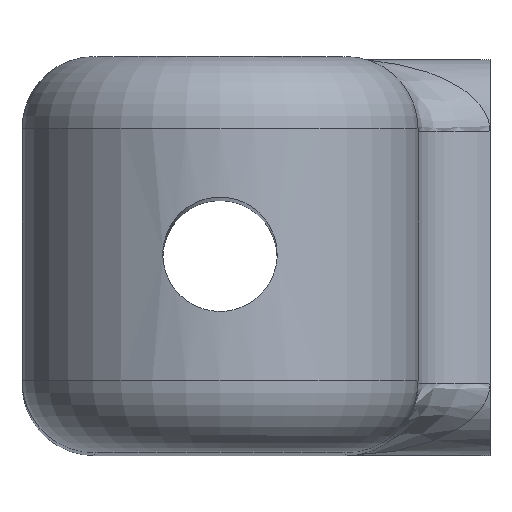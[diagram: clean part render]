
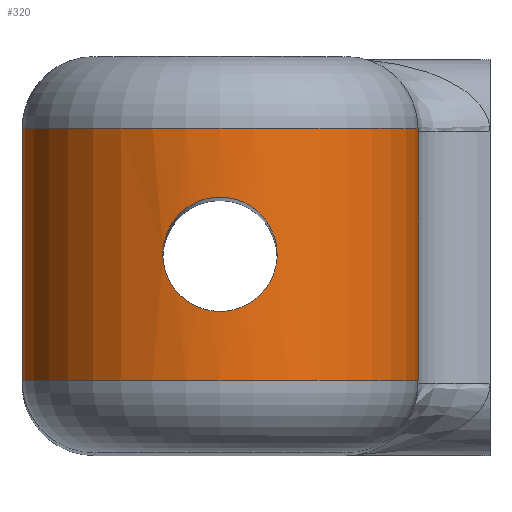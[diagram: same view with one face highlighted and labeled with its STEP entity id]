
A CAD part, top view. The second image highlights one B-rep face of the part: STEP entity #320.
In plain terms, the highlighted cylindrical face has radius 11 mm (diameter 22 mm), a partial arc.
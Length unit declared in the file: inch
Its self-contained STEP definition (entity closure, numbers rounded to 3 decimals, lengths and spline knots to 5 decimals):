
#31=FACE_BOUND('',#58,.T.);
#33=B_SPLINE_CURVE_WITH_KNOTS('',3,(#525,#526,#527,#528,#529,#530,#531,
#532,#533,#534,#535,#536,#537,#538),.UNSPECIFIED.,.F.,.F.,(4,2,2,2,2,2,
4),(1.92544,2.0458,2.16615,2.28648,2.4068,
2.52713,2.54432),.UNSPECIFIED.);
#34=B_SPLINE_CURVE_WITH_KNOTS('',3,(#539,#540,#541,#542,#543,#544,#545,
#546,#547,#548,#549,#550,#551,#552,#553,#554,#555,#556,#557,#558,#559,#560,
#561,#562),.UNSPECIFIED.,.F.,.F.,(4,2,2,2,2,2,2,2,2,2,2,4),(0.61888,
0.72201,0.84237,0.96272,1.08308,
1.20343,1.32376,1.44408,1.56441,1.68473,
1.80509,1.92544),.UNSPECIFIED.);
#35=FACE_OUTER_BOUND('',#57,.T.);
#57=EDGE_LOOP('',(#216,#217,#218,#219));
#58=EDGE_LOOP('',(#220,#221));
#81=LINE('',#519,#101);
#82=LINE('',#522,#102);
#101=VECTOR('',#407,0.55118);
#102=VECTOR('',#410,0.55118);
#121=CIRCLE('',#357,0.43307);
#122=CIRCLE('',#358,0.43307);
#142=VERTEX_POINT('',#515);
#143=VERTEX_POINT('',#516);
#144=VERTEX_POINT('',#518);
#145=VERTEX_POINT('',#520);
#146=VERTEX_POINT('',#523);
#147=VERTEX_POINT('',#524);
#169=EDGE_CURVE('',#142,#143,#121,.T.);
#170=EDGE_CURVE('',#142,#144,#81,.T.);
#171=EDGE_CURVE('',#145,#144,#122,.T.);
#172=EDGE_CURVE('',#143,#145,#82,.T.);
#173=EDGE_CURVE('',#146,#147,#33,.F.);
#174=EDGE_CURVE('',#147,#146,#34,.F.);
#216=ORIENTED_EDGE('',*,*,#169,.F.);
#217=ORIENTED_EDGE('',*,*,#170,.T.);
#218=ORIENTED_EDGE('',*,*,#171,.F.);
#219=ORIENTED_EDGE('',*,*,#172,.F.);
#220=ORIENTED_EDGE('',*,*,#173,.T.);
#221=ORIENTED_EDGE('',*,*,#174,.T.);
#310=CYLINDRICAL_SURFACE('',#356,0.43307);
#320=ADVANCED_FACE('',(#35,#31),#310,.T.);
#356=AXIS2_PLACEMENT_3D('',#514,#403,#404);
#357=AXIS2_PLACEMENT_3D('',#517,#405,#406);
#358=AXIS2_PLACEMENT_3D('',#521,#408,#409);
#403=DIRECTION('center_axis',(0.,1.,0.));
#404=DIRECTION('ref_axis',(-1.,0.,0.));
#405=DIRECTION('center_axis',(0.,-1.,0.));
#406=DIRECTION('ref_axis',(0.,0.,1.));
#407=DIRECTION('',(0.,1.,0.));
#408=DIRECTION('center_axis',(0.,1.,0.));
#409=DIRECTION('ref_axis',(0.,0.,1.));
#410=DIRECTION('',(0.,1.,0.));
#514=CARTESIAN_POINT('Origin',(0.,0.,3.89764));
#515=CARTESIAN_POINT('',(0.43307,-0.27559,3.89764));
#516=CARTESIAN_POINT('',(-0.43307,-0.27559,3.89764));
#517=CARTESIAN_POINT('Origin',(0.,-0.27559,
3.89764));
#518=CARTESIAN_POINT('',(0.43307,0.27559,3.89764));
#519=CARTESIAN_POINT('',(0.43307,-0.27559,3.89764));
#520=CARTESIAN_POINT('',(-0.43307,0.27559,3.89764));
#521=CARTESIAN_POINT('Origin',(0.,0.27559,
3.89764));
#522=CARTESIAN_POINT('',(-0.43307,-0.27559,3.89764));
#523=CARTESIAN_POINT('',(-0.05447,0.11251,4.32727));
#524=CARTESIAN_POINT('',(0.125,0.,4.31228));
#525=CARTESIAN_POINT('Ctrl Pts',(0.125,0.,4.31228));
#526=CARTESIAN_POINT('Ctrl Pts',(0.125,0.01579,4.31228));
#527=CARTESIAN_POINT('Ctrl Pts',(0.12182,0.03258,4.31327));
#528=CARTESIAN_POINT('Ctrl Pts',(0.10904,0.06334,4.31681));
#529=CARTESIAN_POINT('Ctrl Pts',(0.09944,0.07734,
4.31929));
#530=CARTESIAN_POINT('Ctrl Pts',(0.07734,0.09943,
4.3239));
#531=CARTESIAN_POINT('Ctrl Pts',(0.06335,0.10904,4.32633));
#532=CARTESIAN_POINT('Ctrl Pts',(0.03257,0.12183,4.32976));
#533=CARTESIAN_POINT('Ctrl Pts',(0.01579,0.125,4.33071));
#534=CARTESIAN_POINT('Ctrl Pts',(-0.01579,0.125,4.33071));
#535=CARTESIAN_POINT('Ctrl Pts',(-0.03257,0.12183,
4.32976));
#536=CARTESIAN_POINT('Ctrl Pts',(-0.05016,0.11452,
4.3278));
#537=CARTESIAN_POINT('Ctrl Pts',(-0.05233,0.11354,4.32754));
#538=CARTESIAN_POINT('Ctrl Pts',(-0.05447,0.11251,4.32727));
#539=CARTESIAN_POINT('Ctrl Pts',(-0.05447,0.11251,4.32727));
#540=CARTESIAN_POINT('Ctrl Pts',(-0.0673,0.1063,
4.32564));
#541=CARTESIAN_POINT('Ctrl Pts',(-0.07892,0.09786,
4.32357));
#542=CARTESIAN_POINT('Ctrl Pts',(-0.09944,0.07734,
4.31929));
#543=CARTESIAN_POINT('Ctrl Pts',(-0.10904,0.06334,
4.31681));
#544=CARTESIAN_POINT('Ctrl Pts',(-0.12182,0.03258,4.31327));
#545=CARTESIAN_POINT('Ctrl Pts',(-0.125,0.01579,4.31228));
#546=CARTESIAN_POINT('Ctrl Pts',(-0.125,-0.01579,4.31228));
#547=CARTESIAN_POINT('Ctrl Pts',(-0.12182,-0.03258,
4.31327));
#548=CARTESIAN_POINT('Ctrl Pts',(-0.10904,-0.06334,
4.31681));
#549=CARTESIAN_POINT('Ctrl Pts',(-0.09944,-0.07734,
4.31929));
#550=CARTESIAN_POINT('Ctrl Pts',(-0.07734,-0.09943,
4.3239));
#551=CARTESIAN_POINT('Ctrl Pts',(-0.06335,-0.10904,
4.32633));
#552=CARTESIAN_POINT('Ctrl Pts',(-0.03257,-0.12183,
4.32976));
#553=CARTESIAN_POINT('Ctrl Pts',(-0.01579,-0.125,4.33071));
#554=CARTESIAN_POINT('Ctrl Pts',(0.01579,-0.125,4.33071));
#555=CARTESIAN_POINT('Ctrl Pts',(0.03257,-0.12183,
4.32976));
#556=CARTESIAN_POINT('Ctrl Pts',(0.06335,-0.10904,4.32633));
#557=CARTESIAN_POINT('Ctrl Pts',(0.07734,-0.09943,
4.3239));
#558=CARTESIAN_POINT('Ctrl Pts',(0.09944,-0.07734,
4.31929));
#559=CARTESIAN_POINT('Ctrl Pts',(0.10904,-0.06334,
4.31681));
#560=CARTESIAN_POINT('Ctrl Pts',(0.12182,-0.03258,4.31327));
#561=CARTESIAN_POINT('Ctrl Pts',(0.125,-0.01579,4.31228));
#562=CARTESIAN_POINT('Ctrl Pts',(0.125,0.,4.31228));
